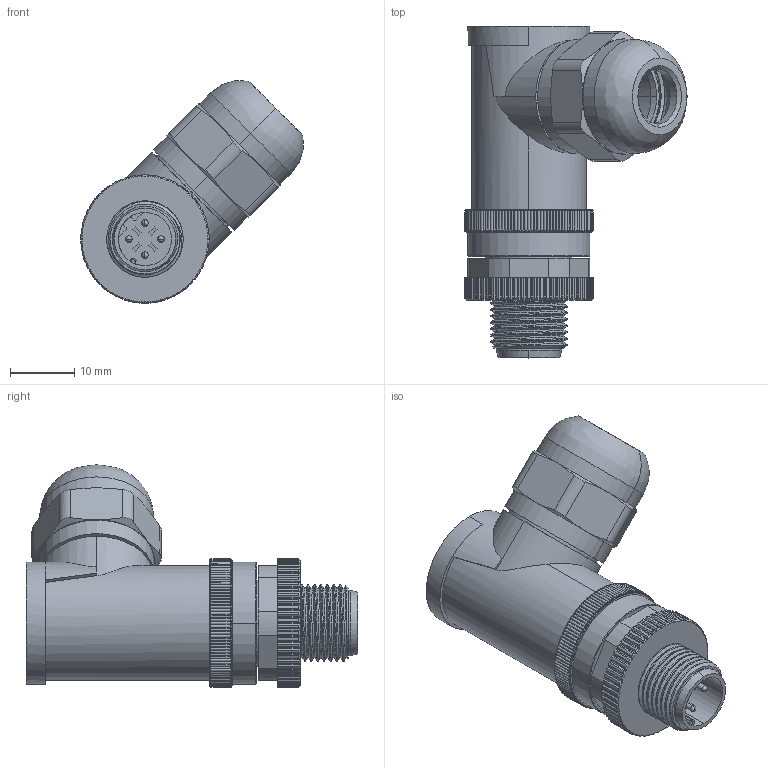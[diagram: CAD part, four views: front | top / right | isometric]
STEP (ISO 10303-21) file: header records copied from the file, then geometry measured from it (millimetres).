
FILE_DESCRIPTION((''),'2;1');
FILE_NAME('XC-M12P-RWK-PG9','2025-06-23T15:51:25',('lyj'),(''),'CREO PARAMETRIC BY PTC INC, 2019010','CREO PARAMETRIC BY PTC INC, 2019010','');
FILE_SCHEMA(('CONFIG_CONTROL_DESIGN'));
Length unit declared in the file: millimetre
Products named in the file (1): XC-M12P-RWK-PG9
Bounding box: 34.66 x 51.7 x 34.66 mm (x, y, z)
Volume: 10228.4 mm3; surface area: 14099.1 mm2
Topology: 1 solids, 16 shells, 1706 faces, 4488 edges, 2851 vertices
Faces by surface type: cylinder 830, plane 381, cone 373, bspline 60, extrusion 28, torus 24, sphere 10
Entity records: 83962 total; most frequent: CARTESIAN_POINT 43700, ORIENTED_EDGE 8956, DIRECTION 7736, EDGE_CURVE 4478, AXIS2_PLACEMENT_3D 3079, VERTEX_POINT 2851, EDGE_LOOP 1797, FACE_OUTER_BOUND 1706
